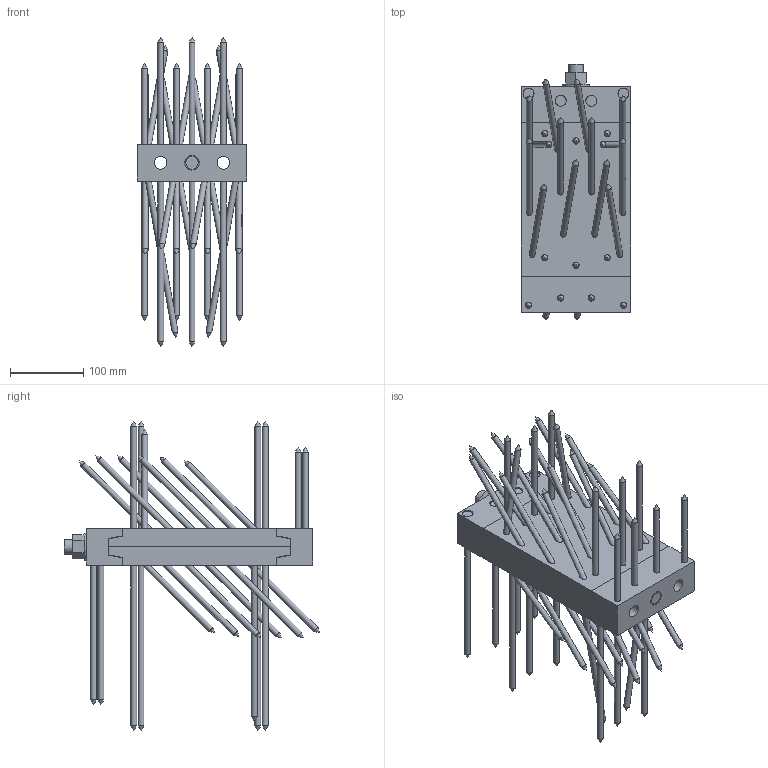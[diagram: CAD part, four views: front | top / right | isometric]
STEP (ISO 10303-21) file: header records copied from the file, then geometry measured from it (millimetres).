
FILE_DESCRIPTION(/* description */ ('Unknown'),/* implementation_level */ '2;1');
FILE_NAME(/* name */ 'MEGANT_310x150x50_Sichtbar',/* time_stamp */ '2020-05-05T17:03:50+02:00',/* author */ ('Unknown'),/* organization */ ('Unknown'),/* preprocessor_version */ 'ST-DEVELOPER v16.7',/* originating_system */ 'DEX',/* authorisation */ $);
FILE_SCHEMA (('AUTOMOTIVE_DESIGN {1 0 10303 214 3 1 1}'));
Length unit declared in the file: millimetre
Products named in the file (14): MEGANT_310x150x50_Sichtbar; Verbinderplatte_250x150x25_HT; SK_Schraube_8x160; Verbinderplatte_250x150x25; Verbinderplatte_250x150x25_NT; SK_Schraube_8x240; Gewindestange_M20_L340; Mutter_M20; Beilagscheibe_M20; Spannbacke_oben_150x50x50_NT; Spannbacke_oben_150x50x50; Spannbacke_unten_150x50x50_HT; Spannbacke_unten_150x50x50
Assembly tree (60 placements, depth 3):
  MEGANT_310x150x50_Sichtbar
    Verbinderplatte_250x150x25_HT
      SK_Schraube_8x160  x20
      Verbinderplatte_250x150x25
    Verbinderplatte_250x150x25_NT
      SK_Schraube_8x240  x8
      Verbinderplatte_250x150x25
      SK_Schraube_8x160  x12
    Gewindestange_M20_L340
      Gewindestange_M20_L340
      Mutter_M20
      Beilagscheibe_M20
    Spannbacke_oben_150x50x50_NT
      SK_Schraube_8x240  x4
      Spannbacke_oben_150x50x50
    Spannbacke_unten_150x50x50_HT
      Spannbacke_unten_150x50x50
      SK_Schraube_8x160  x4
Bounding box: 150 x 349.49 x 424 mm (x, y, z)
Volume: 2335814.9 mm3; surface area: 588673.2 mm2
Topology: 55 solids, 55 shells, 583 faces, 1353 edges, 843 vertices
Faces by surface type: plane 229, cylinder 210, cone 144
Full cylindrical faces by diameter (mm): 8 x48, 8.5 x48, 15 x96, 17.294 x4, 20 x1, 21 x4, 37 x1
Entity records: 6882 total; most frequent: DIRECTION 1134, CARTESIAN_POINT 1041, ORIENTED_EDGE 856, EDGE_CURVE 428, AXIS2_PLACEMENT_3D 427, FACE_BOUND 398, EDGE_LOOP 396, VERTEX_POINT 334
